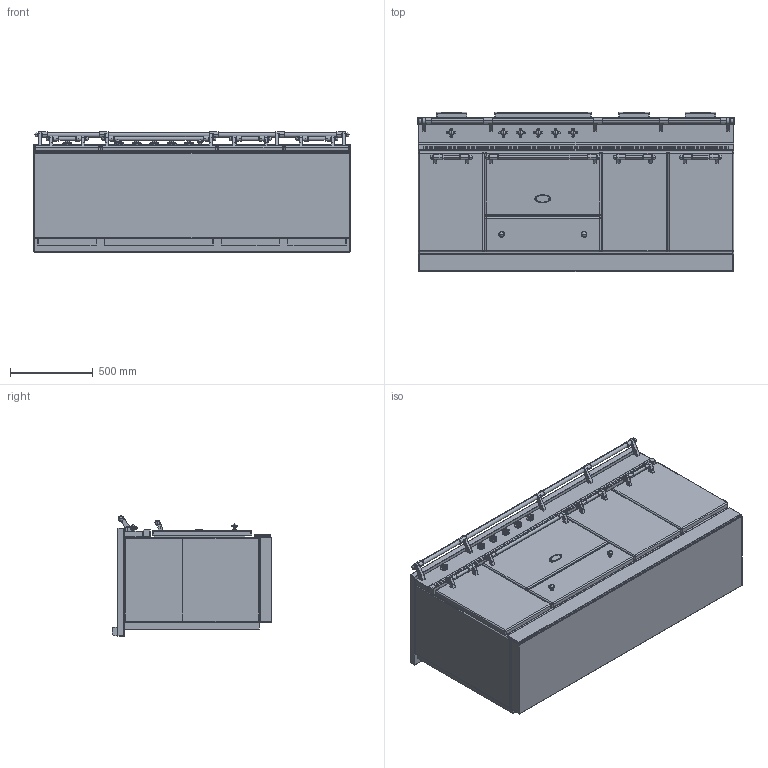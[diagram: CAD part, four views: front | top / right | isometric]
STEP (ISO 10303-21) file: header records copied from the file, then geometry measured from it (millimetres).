
FILE_DESCRIPTION((''),'2;1');
FILE_NAME('LVTR1942D_ASM','2021-12-02T16:01:52',('r.avril'),(''),'CREO PARAMETRIC BY PTC INC, 2017260','CREO PARAMETRIC BY PTC INC, 2017260','');
FILE_SCHEMA(('AP203_CONFIGURATION_CONTROLLED_3D_DESIGN_OF_MECHANICAL_PARTS_AND_ASSEMBLIES_MIM_LF { 1 0 10303 403 2 1 2 }'));
Products named in the file (21): BASE_EXPORT_FONTENAY_LVTR1941D; 65650003; 65650004; 65650006; 65650007; 6531940; 6531941; 6531943; 65049009; 65650001; 6538399; 1931942; 65080022_AF0; 6531942_ASM; BASE_EXPORT_CITEAUX_LVTR1942D_ASM; TABLE_1900D_INDUCTION_ET_VTR; 65052002; CHEMINEE_2020_LG582_EXPORT_STEP; CHEMINEE_2020_LG182_EXPORT_STEP; TABLE_1900D_VTR_ASM; LVTR1942D_ASM
Assembly tree (35 placements, depth 4):
  LVTR1942D_ASM
    BASE_EXPORT_CITEAUX_LVTR1942D_ASM
      BASE_EXPORT_FONTENAY_LVTR1941D
      65650003
      65650004
      65650006  x2
      65650007
      6531940  x4
      6531941  x4
      6531943  x2
      65049009
      65650001
      6531942_ASM  x6
        6538399
        1931942
        65080022_AF0
    TABLE_1900D_VTR_ASM
      TABLE_1900D_INDUCTION_ET_VTR
      65052002
      CHEMINEE_2020_LG582_EXPORT_STEP
      CHEMINEE_2020_LG182_EXPORT_STEP  x3
Bounding box: 1905 x 963 x 724 mm (x, y, z)
Volume: 703327377.6 mm3; surface area: 16474668.5 mm2
Topology: 51 solids, 66 shells, 5479 faces, 14709 edges, 9389 vertices
Faces by surface type: plane 2688, cylinder 1927, torus 273, sphere 186, extrusion 170, bspline 117, cone 98, revolution 20
Entity records: 115216 total; most frequent: CARTESIAN_POINT 25367, DIRECTION 16160, ORIENTED_EDGE 16104, EDGE_CURVE 8066, AXIS2_PLACEMENT_3D 5456, VERTEX_POINT 5195, VECTOR 5180, LINE 5150
